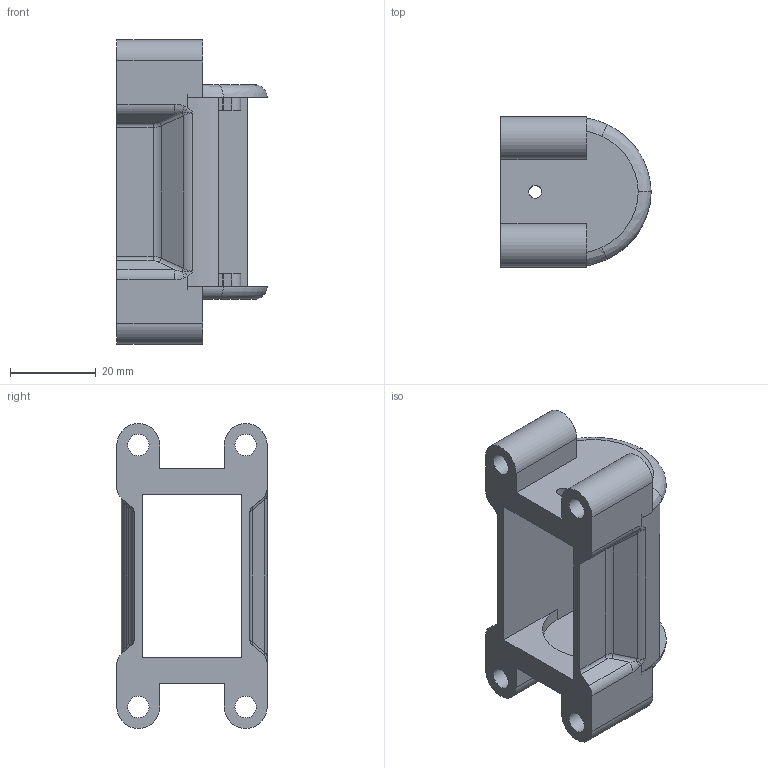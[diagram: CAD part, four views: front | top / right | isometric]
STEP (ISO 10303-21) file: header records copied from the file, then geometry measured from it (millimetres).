
FILE_DESCRIPTION((''),'2;1');
FILE_NAME('E:\Uebbing\temp\PFR 122\PFR 122 Stirnflanschanschluss02.stp','2010-08-16T11:16:44',('UebbingXP'),(''),'Autodesk Inventor 10','Autodesk Inventor 10','');
FILE_SCHEMA(('AUTOMOTIVE_DESIGN { 1 0 10303 214 1 1 1 1 }'));
Length unit declared in the file: millimetre
Products named in the file (1): PFR 122 Stirnflanschanschluss02
Bounding box: 35 x 35 x 71 mm (x, y, z)
Volume: 21005.3 mm3; surface area: 13504 mm2
Topology: 1 solids, 1 shells, 131 faces, 346 edges, 214 vertices
Faces by surface type: bspline 69, plane 36, cylinder 22, torus 4
Full cylindrical faces by diameter (mm): 3 x1, 5 x2
Entity records: 5763 total; most frequent: CARTESIAN_POINT 2742, ORIENTED_EDGE 668, DIRECTION 536, EDGE_CURVE 334, VERTEX_POINT 212, VECTOR 190, LINE 190, AXIS2_PLACEMENT_3D 173
